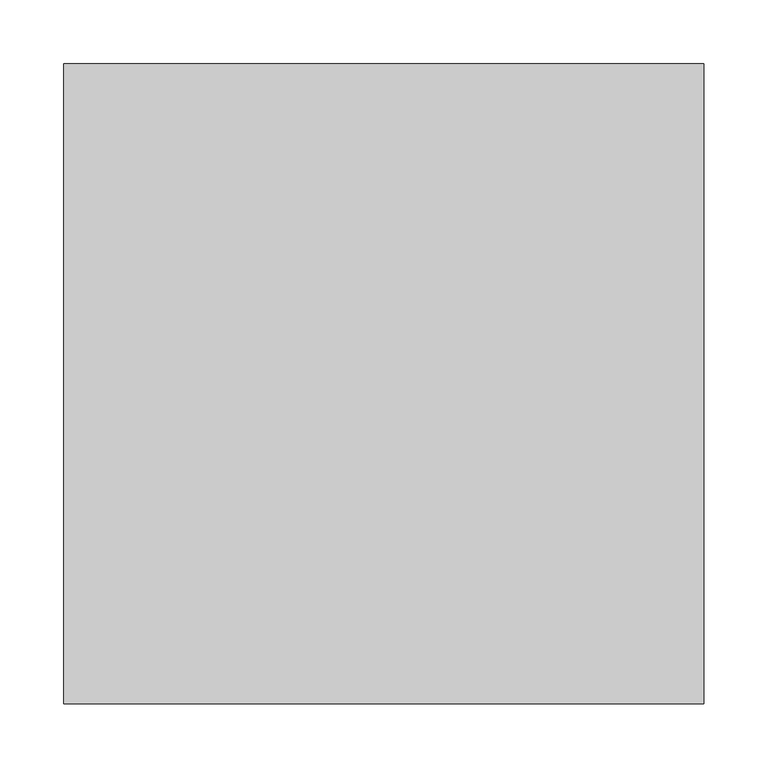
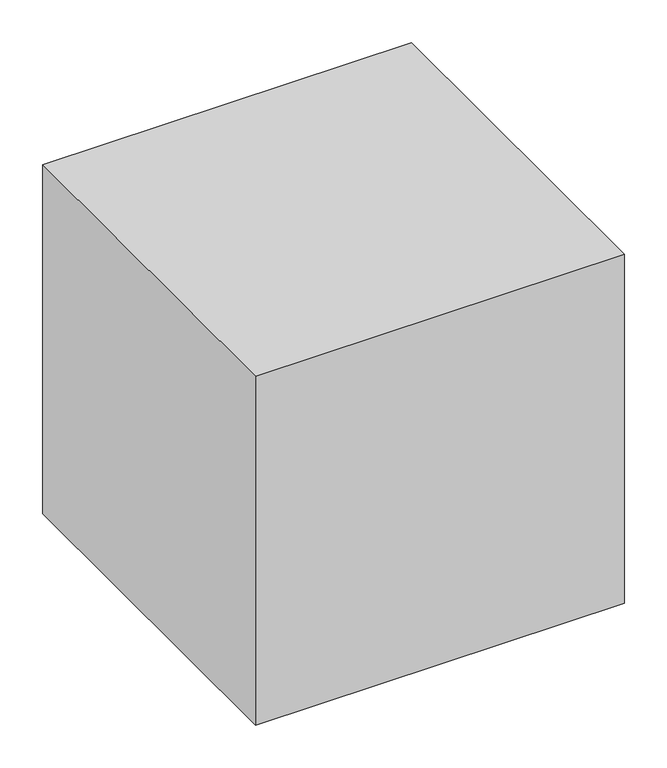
"""IFC4 building model written with IfcOpenShell, lengths in millimetres: proxy geometry, BIMHealth-Gradient_Amplifier_Heat_Exchanger-LOD2A-v1 : BIMHealth-Gradient_Amplifier_Heat_Exchanger-LOD2A-v1."""

from ifc_helpers import new_model, si_unit, origin, origin_with_axes, place, context, project, spatial, polyline, outline, extrude, source, transform, mapped, element, save


def generic_models_a4c6fd55(model_context):
    return source(origin(), model_context, "Body", "SweptSolid", [
        extrude(outline(polyline([(250.0, -250.0), (-250.0, -250.0), (-250.0, 250.0), (250.0, 250.0), (250.0, -250.0)])), origin_with_axes(), (0.0, 0.0, 1.0), 500.0),
    ])


if __name__ == "__main__":
    model = new_model("IFC4")
    model_context = context("Model", 3, world=origin())
    ifc_project = project(units=[si_unit("LENGTHUNIT", "METRE", prefix="MILLI")], contexts=[model_context])
    site = spatial("IfcSite", under=ifc_project)
    building = spatial("IfcBuilding", under=site)
    placement = place(None, origin())
    generic_models_shape = generic_models_a4c6fd55(model_context)
    element("IfcBuildingElementProxy", 1, Name="BIMHealth-Gradient_Amplifier_Heat_Exchanger-LOD2A-v1 : BIMHealth-Gradient_Amplifier_Heat_Exchanger-LOD2A-v1", ObjectType="BIMHealth-Gradient_Amplifier_Heat_Exchanger-LOD2A-v1 : BIMHealth-Gradient_Amplifier_Heat_Exchanger-LOD2A-v1", at=placement, inside=building, context=model_context, shape_type="MappedRepresentation", body=[
        mapped(generic_models_shape, transform((0.0, 0.0, 0.0), x_axis=(1.0, 0.0, 0.0), y_axis=(0.0, 1.0, 0.0), z_axis=(0.0, 0.0, 1.0))),
    ])
    save(model, "model.ifc")
